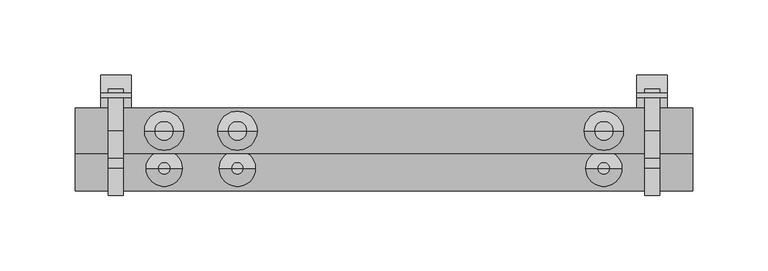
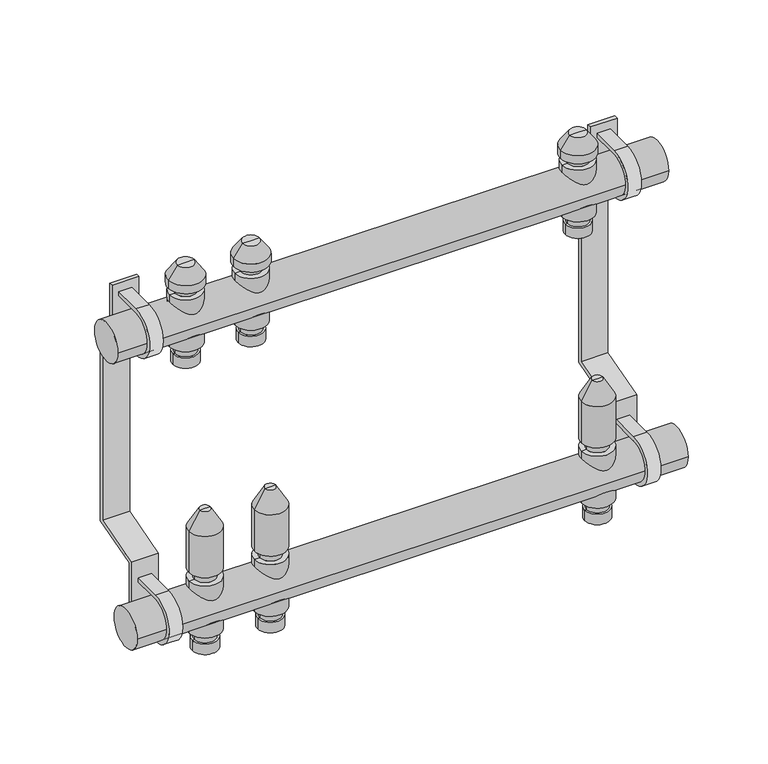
"""IFC4 building model written with IfcOpenShell, lengths in millimetres: valve geometry, PL AT_Manifold_FT-EV : 07 circuits."""

from ifc_helpers import new_model, si_unit, point, frame, frame_2d, origin, origin_2d, place, context, project, spatial, polyline, circle_curve, trimmed, segment, composite_curve, outline, extrude, source, transform, mapped, element, save
from ifc_brep_helpers import plane_surface, cylinder_surface, revolved_surface, advanced_brep


def valve_4b47ae93(model_context):
    return source(origin(), model_context, "Body", "SolidModel", [
        advanced_brep(
        [(81.1666667, 0.0, -35.11267), (100.1666667, 0.0, -35.11267), (90.6666667, 0.0, -35.11267), (81.1666667, 0.0, -27.0369646), (100.1666667, 0.0, -27.0369646), (82.6666667, 0.0, -27.0369646), (98.6666667, 0.0, -27.0369646), (82.6666667, 0.0, -20.330253), (98.6666667, 0.0, -20.330253), (78.6666667, 0.0, -20.330253), (102.6666667, 0.0, -20.330253), (78.6666667, 0.0, 20.330253), (102.6666667, 0.0, 20.330253), (82.6666667, 0.0, 20.330253), (98.6666667, 0.0, 20.330253), (82.6666667, 0.0, 27.0474786), (98.6666667, 0.0, 27.0474786), (78.6666667, 0.0, 27.0474786), (102.6666667, 0.0, 27.0474786), (78.6666667, 0.0, 59.4084325), (102.6666667, 0.0, 59.4084325), (86.6666667, 0.0, 73.264839), (94.6666667, 0.0, 73.264839), (90.6666667, 0.0, 73.264839)],
        [
            (0, 1, circle_curve(frame((90.6666667, 0.0, -35.11267), z_axis=(0.0, 0.0, -1.0), x_axis=(1.0, 0.0, 0.0)), 9.5)),
            (1, 2),
            (2, 0),
            (1, 0, circle_curve(frame((90.6666667, 0.0, -35.11267), z_axis=(0.0, 0.0, -1.0), x_axis=(1.0, 0.0, 0.0)), 9.5)),
            (3, 4, circle_curve(frame((90.6666667, 0.0, -27.0369646), z_axis=(0.0, 0.0, -1.0), x_axis=(1.0, 0.0, 0.0)), 9.5)),
            (4, 1),
            (0, 3),
            (4, 3, circle_curve(frame((90.6666667, 0.0, -27.0369646), z_axis=(0.0, 0.0, -1.0), x_axis=(1.0, 0.0, 0.0)), 9.5)),
            (5, 6, circle_curve(frame((90.6666667, 0.0, -27.0369646), z_axis=(0.0, 0.0, -1.0), x_axis=(1.0, 0.0, 0.0)), 8.0)),
            (6, 4),
            (3, 5),
            (6, 5, circle_curve(frame((90.6666667, 0.0, -27.0369646), z_axis=(0.0, 0.0, -1.0), x_axis=(1.0, 0.0, 0.0)), 8.0)),
            (7, 8, circle_curve(frame((90.6666667, 0.0, -20.330253), z_axis=(0.0, 0.0, -1.0), x_axis=(1.0, 0.0, 0.0)), 8.0)),
            (8, 6),
            (5, 7),
            (8, 7, circle_curve(frame((90.6666667, 0.0, -20.330253), z_axis=(0.0, 0.0, -1.0), x_axis=(1.0, 0.0, 0.0)), 8.0)),
            (9, 10, circle_curve(frame((90.6666667, 0.0, -20.330253), z_axis=(0.0, 0.0, -1.0), x_axis=(1.0, 0.0, 0.0)), 12.0)),
            (10, 8),
            (7, 9),
            (10, 9, circle_curve(frame((90.6666667, 0.0, -20.330253), z_axis=(0.0, 0.0, -1.0), x_axis=(1.0, 0.0, 0.0)), 12.0)),
            (11, 12, circle_curve(frame((90.6666667, 0.0, 20.330253), z_axis=(0.0, 0.0, -1.0), x_axis=(1.0, 0.0, 0.0)), 12.0)),
            (12, 10),
            (9, 11),
            (12, 11, circle_curve(frame((90.6666667, 0.0, 20.330253), z_axis=(0.0, 0.0, -1.0), x_axis=(1.0, 0.0, 0.0)), 12.0)),
            (13, 14, circle_curve(frame((90.6666667, 0.0, 20.330253), z_axis=(0.0, 0.0, -1.0), x_axis=(1.0, 0.0, 0.0)), 8.0)),
            (14, 12),
            (11, 13),
            (14, 13, circle_curve(frame((90.6666667, 0.0, 20.330253), z_axis=(0.0, 0.0, -1.0), x_axis=(1.0, 0.0, 0.0)), 8.0)),
            (15, 16, circle_curve(frame((90.6666667, 0.0, 27.0474786), z_axis=(0.0, 0.0, -1.0), x_axis=(1.0, 0.0, 0.0)), 8.0)),
            (16, 14),
            (13, 15),
            (16, 15, circle_curve(frame((90.6666667, 0.0, 27.0474786), z_axis=(0.0, 0.0, -1.0), x_axis=(1.0, 0.0, 0.0)), 8.0)),
            (17, 18, circle_curve(frame((90.6666667, 0.0, 27.0474786), z_axis=(0.0, 0.0, -1.0), x_axis=(1.0, 0.0, 0.0)), 12.0)),
            (18, 16),
            (15, 17),
            (18, 17, circle_curve(frame((90.6666667, 0.0, 27.0474786), z_axis=(0.0, 0.0, -1.0), x_axis=(1.0, 0.0, 0.0)), 12.0)),
            (19, 20, circle_curve(frame((90.6666667, 0.0, 59.4084325), z_axis=(0.0, 0.0, -1.0), x_axis=(1.0, 0.0, 0.0)), 12.0)),
            (20, 18),
            (17, 19),
            (20, 19, circle_curve(frame((90.6666667, 0.0, 59.4084325), z_axis=(0.0, 0.0, -1.0), x_axis=(1.0, 0.0, 0.0)), 12.0)),
            (21, 22, circle_curve(frame((90.6666667, 0.0, 73.264839), z_axis=(0.0, 0.0, -1.0), x_axis=(1.0, 0.0, 0.0)), 4.0)),
            (22, 20),
            (19, 21),
            (22, 21, circle_curve(frame((90.6666667, 0.0, 73.264839), z_axis=(0.0, 0.0, -1.0), x_axis=(1.0, 0.0, 0.0)), 4.0)),
            (23, 22),
            (21, 23),
        ],
        [
            plane_surface(frame((90.6666667, 0.0, -35.11267), z_axis=(0.0, 0.0, -1.0), x_axis=(1.0, 0.0, 0.0))),
            cylinder_surface(frame((90.6666667, 0.0, 58.264839), z_axis=(0.0, 0.0, 1.0), x_axis=(1.0, 0.0, 0.0)), 9.5),
            plane_surface(frame((90.6666667, 0.0, -27.0369646), z_axis=(0.0, 0.0, 1.0), x_axis=(1.0, 0.0, 0.0))),
            cylinder_surface(frame((90.6666667, 0.0, 58.264839), z_axis=(0.0, 0.0, 1.0), x_axis=(1.0, 0.0, 0.0)), 8.0),
            plane_surface(frame((90.6666667, 0.0, -20.330253), z_axis=(0.0, 0.0, -1.0), x_axis=(1.0, 0.0, 0.0))),
            cylinder_surface(frame((90.6666667, 0.0, 58.264839), z_axis=(0.0, 0.0, 1.0), x_axis=(1.0, 0.0, 0.0)), 12.0),
            plane_surface(frame((90.6666667, 0.0, 20.330253), z_axis=(0.0, 0.0, 1.0), x_axis=(1.0, 0.0, 0.0))),
            plane_surface(frame((90.6666667, 0.0, 27.0474786), z_axis=(0.0, 0.0, -1.0), x_axis=(1.0, 0.0, 0.0))),
            revolved_surface(polyline([(102.6666667, 0.0, 59.4084325), (94.6666667, 0.0, 73.264839)]), (90.6666667, 0.0, 58.264839), (0.0, 0.0, 1.0)),
            plane_surface(frame((90.6666667, 0.0, 73.264839), z_axis=(0.0, 0.0, 1.0), x_axis=(1.0, 0.0, 0.0))),
        ],
        [
            (0, [[1, 2, 3]]),
            (0, [[4, -3, -2]]),
            (1, [[5, 6, -1, 7]]),
            (1, [[8, -7, -4, -6]]),
            (2, [[9, 10, -5, 11]]),
            (2, [[12, -11, -8, -10]]),
            (3, [[13, 14, -9, 15]]),
            (3, [[16, -15, -12, -14]]),
            (4, [[17, 18, -13, 19]]),
            (4, [[20, -19, -16, -18]]),
            (5, [[21, 22, -17, 23]]),
            (5, [[24, -23, -20, -22]]),
            (6, [[25, 26, -21, 27]]),
            (6, [[28, -27, -24, -26]]),
            (3, [[29, 30, -25, 31]]),
            (3, [[32, -31, -28, -30]]),
            (7, [[33, 34, -29, 35]]),
            (7, [[36, -35, -32, -34]]),
            (5, [[37, 38, -33, 39]]),
            (5, [[40, -39, -36, -38]]),
            (8, [[41, 42, -37, 43]]),
            (8, [[44, -43, -40, -42]]),
            (9, [[45, -41, 46]]),
            (9, [[-46, -44, -45]]),
        ],
    ),
        advanced_brep(
        [(81.1666667, 25.0, 174.88733), (100.1666667, 25.0, 174.88733), (90.6666667, 25.0, 174.88733), (81.1666667, 25.0, 182.9630354), (100.1666667, 25.0, 182.9630354), (82.6666667, 25.0, 182.9630354), (98.6666667, 25.0, 182.9630354), (82.6666667, 25.0, 189.669747), (98.6666667, 25.0, 189.669747), (78.6666667, 25.0, 189.669747), (102.6666667, 25.0, 189.669747), (78.6666667, 25.0, 230.330253), (102.6666667, 25.0, 230.330253), (82.6666667, 25.0, 230.330253), (98.6666667, 25.0, 230.330253), (82.6666667, 25.0, 236.0474786), (98.6666667, 25.0, 236.0474786), (77.6666667, 25.0, 236.0474786), (103.6666667, 25.0, 236.0474786), (77.6666667, 25.0, 242.337955), (103.6666667, 25.0, 242.337955), (84.3218445, 25.0, 251.842534), (97.0114888, 25.0, 251.842534), (90.6666667, 25.0, 251.842534)],
        [
            (0, 1, circle_curve(frame((90.6666667, 25.0, 174.88733), z_axis=(0.0, 0.0, -1.0), x_axis=(1.0, 0.0, 0.0)), 9.5)),
            (1, 2),
            (2, 0),
            (1, 0, circle_curve(frame((90.6666667, 25.0, 174.88733), z_axis=(0.0, 0.0, -1.0), x_axis=(1.0, 0.0, 0.0)), 9.5)),
            (3, 4, circle_curve(frame((90.6666667, 25.0, 182.9630354), z_axis=(0.0, 0.0, -1.0), x_axis=(1.0, 0.0, 0.0)), 9.5)),
            (4, 1),
            (0, 3),
            (4, 3, circle_curve(frame((90.6666667, 25.0, 182.9630354), z_axis=(0.0, 0.0, -1.0), x_axis=(1.0, 0.0, 0.0)), 9.5)),
            (5, 6, circle_curve(frame((90.6666667, 25.0, 182.9630354), z_axis=(0.0, 0.0, -1.0), x_axis=(1.0, 0.0, 0.0)), 8.0)),
            (6, 4),
            (3, 5),
            (6, 5, circle_curve(frame((90.6666667, 25.0, 182.9630354), z_axis=(0.0, 0.0, -1.0), x_axis=(1.0, 0.0, 0.0)), 8.0)),
            (7, 8, circle_curve(frame((90.6666667, 25.0, 189.669747), z_axis=(0.0, 0.0, -1.0), x_axis=(1.0, 0.0, 0.0)), 8.0)),
            (8, 6),
            (5, 7),
            (8, 7, circle_curve(frame((90.6666667, 25.0, 189.669747), z_axis=(0.0, 0.0, -1.0), x_axis=(1.0, 0.0, 0.0)), 8.0)),
            (9, 10, circle_curve(frame((90.6666667, 25.0, 189.669747), z_axis=(0.0, 0.0, -1.0), x_axis=(1.0, 0.0, 0.0)), 12.0)),
            (10, 8),
            (7, 9),
            (10, 9, circle_curve(frame((90.6666667, 25.0, 189.669747), z_axis=(0.0, 0.0, -1.0), x_axis=(1.0, 0.0, 0.0)), 12.0)),
            (11, 12, circle_curve(frame((90.6666667, 25.0, 230.330253), z_axis=(0.0, 0.0, -1.0), x_axis=(1.0, 0.0, 0.0)), 12.0)),
            (12, 10),
            (9, 11),
            (12, 11, circle_curve(frame((90.6666667, 25.0, 230.330253), z_axis=(0.0, 0.0, -1.0), x_axis=(1.0, 0.0, 0.0)), 12.0)),
            (13, 14, circle_curve(frame((90.6666667, 25.0, 230.330253), z_axis=(0.0, 0.0, -1.0), x_axis=(1.0, 0.0, 0.0)), 8.0)),
            (14, 12),
            (11, 13),
            (14, 13, circle_curve(frame((90.6666667, 25.0, 230.330253), z_axis=(0.0, 0.0, -1.0), x_axis=(1.0, 0.0, 0.0)), 8.0)),
            (15, 16, circle_curve(frame((90.6666667, 25.0, 236.0474786), z_axis=(0.0, 0.0, -1.0), x_axis=(1.0, 0.0, 0.0)), 8.0)),
            (16, 14),
            (13, 15),
            (16, 15, circle_curve(frame((90.6666667, 25.0, 236.0474786), z_axis=(0.0, 0.0, -1.0), x_axis=(1.0, 0.0, 0.0)), 8.0)),
            (17, 18, circle_curve(frame((90.6666667, 25.0, 236.0474786), z_axis=(0.0, 0.0, -1.0), x_axis=(1.0, 0.0, 0.0)), 13.0)),
            (18, 16),
            (15, 17),
            (18, 17, circle_curve(frame((90.6666667, 25.0, 236.0474786), z_axis=(0.0, 0.0, -1.0), x_axis=(1.0, 0.0, 0.0)), 13.0)),
            (19, 20, circle_curve(frame((90.6666667, 25.0, 242.337955), z_axis=(0.0, 0.0, -1.0), x_axis=(1.0, 0.0, 0.0)), 13.0)),
            (20, 18),
            (17, 19),
            (20, 19, circle_curve(frame((90.6666667, 25.0, 242.337955), z_axis=(0.0, 0.0, -1.0), x_axis=(1.0, 0.0, 0.0)), 13.0)),
            (21, 22, circle_curve(frame((90.6666667, 25.0, 251.842534), z_axis=(0.0, 0.0, -1.0), x_axis=(1.0, 0.0, 0.0)), 6.3448221)),
            (22, 20),
            (19, 21),
            (22, 21, circle_curve(frame((90.6666667, 25.0, 251.842534), z_axis=(0.0, 0.0, -1.0), x_axis=(1.0, 0.0, 0.0)), 6.3448221)),
            (23, 22),
            (21, 23),
        ],
        [
            plane_surface(frame((90.6666667, 25.0, 174.88733), z_axis=(0.0, 0.0, -1.0), x_axis=(1.0, 0.0, 0.0))),
            cylinder_surface(frame((90.6666667, 25.0, 247.7026565), z_axis=(0.0, 0.0, 1.0), x_axis=(1.0, 0.0, 0.0)), 9.5),
            plane_surface(frame((90.6666667, 25.0, 182.9630354), z_axis=(0.0, 0.0, 1.0), x_axis=(1.0, 0.0, 0.0))),
            cylinder_surface(frame((90.6666667, 25.0, 247.7026565), z_axis=(0.0, 0.0, 1.0), x_axis=(1.0, 0.0, 0.0)), 8.0),
            plane_surface(frame((90.6666667, 25.0, 189.669747), z_axis=(0.0, 0.0, -1.0), x_axis=(1.0, 0.0, 0.0))),
            cylinder_surface(frame((90.6666667, 25.0, 247.7026565), z_axis=(0.0, 0.0, 1.0), x_axis=(1.0, 0.0, 0.0)), 12.0),
            plane_surface(frame((90.6666667, 25.0, 230.330253), z_axis=(0.0, 0.0, 1.0), x_axis=(1.0, 0.0, 0.0))),
            plane_surface(frame((90.6666667, 25.0, 236.0474786), z_axis=(0.0, 0.0, -1.0), x_axis=(1.0, 0.0, 0.0))),
            cylinder_surface(frame((90.6666667, 25.0, 247.7026565), z_axis=(0.0, 0.0, 1.0), x_axis=(1.0, 0.0, 0.0)), 13.0),
            revolved_surface(polyline([(103.6666667, 25.0, 242.337955), (97.0114888, 25.0, 251.842534)]), (90.6666667, 25.0, 247.7026565), (0.0, 0.0, 1.0)),
            plane_surface(frame((90.6666667, 25.0, 251.842534), z_axis=(0.0, 0.0, 1.0), x_axis=(1.0, 0.0, 0.0))),
        ],
        [
            (0, [[1, 2, 3]]),
            (0, [[4, -3, -2]]),
            (1, [[5, 6, -1, 7]]),
            (1, [[8, -7, -4, -6]]),
            (2, [[9, 10, -5, 11]]),
            (2, [[12, -11, -8, -10]]),
            (3, [[13, 14, -9, 15]]),
            (3, [[16, -15, -12, -14]]),
            (4, [[17, 18, -13, 19]]),
            (4, [[20, -19, -16, -18]]),
            (5, [[21, 22, -17, 23]]),
            (5, [[24, -23, -20, -22]]),
            (6, [[25, 26, -21, 27]]),
            (6, [[28, -27, -24, -26]]),
            (3, [[29, 30, -25, 31]]),
            (3, [[32, -31, -28, -30]]),
            (7, [[33, 34, -29, 35]]),
            (7, [[36, -35, -32, -34]]),
            (8, [[37, 38, -33, 39]]),
            (8, [[40, -39, -36, -38]]),
            (9, [[41, 42, -37, 43]]),
            (9, [[44, -43, -40, -42]]),
            (10, [[45, -41, 46]]),
            (10, [[-46, -44, -45]]),
        ],
    ),
        advanced_brep(
        [(324.5, 0.0, -35.11267), (343.5, 0.0, -35.11267), (334.0, 0.0, -35.11267), (324.5, 0.0, -27.0369646), (343.5, 0.0, -27.0369646), (326.0, 0.0, -27.0369646), (342.0, 0.0, -27.0369646), (326.0, 0.0, -20.330253), (342.0, 0.0, -20.330253), (322.0, 0.0, -20.330253), (346.0, 0.0, -20.330253), (322.0, 0.0, 20.330253), (346.0, 0.0, 20.330253), (326.0, 0.0, 20.330253), (342.0, 0.0, 20.330253), (326.0, 0.0, 27.0474786), (342.0, 0.0, 27.0474786), (322.0, 0.0, 27.0474786), (346.0, 0.0, 27.0474786), (322.0, 0.0, 59.4084325), (346.0, 0.0, 59.4084325), (330.0, 0.0, 73.264839), (338.0, 0.0, 73.264839), (334.0, 0.0, 73.264839)],
        [
            (0, 1, circle_curve(frame((334.0, 0.0, -35.11267), z_axis=(0.0, 0.0, -1.0), x_axis=(1.0, 0.0, 0.0)), 9.5)),
            (1, 2),
            (2, 0),
            (1, 0, circle_curve(frame((334.0, 0.0, -35.11267), z_axis=(0.0, 0.0, -1.0), x_axis=(1.0, 0.0, 0.0)), 9.5)),
            (3, 4, circle_curve(frame((334.0, 0.0, -27.0369646), z_axis=(0.0, 0.0, -1.0), x_axis=(1.0, 0.0, 0.0)), 9.5)),
            (4, 1),
            (0, 3),
            (4, 3, circle_curve(frame((334.0, 0.0, -27.0369646), z_axis=(0.0, 0.0, -1.0), x_axis=(1.0, 0.0, 0.0)), 9.5)),
            (5, 6, circle_curve(frame((334.0, 0.0, -27.0369646), z_axis=(0.0, 0.0, -1.0), x_axis=(1.0, 0.0, 0.0)), 8.0)),
            (6, 4),
            (3, 5),
            (6, 5, circle_curve(frame((334.0, 0.0, -27.0369646), z_axis=(0.0, 0.0, -1.0), x_axis=(1.0, 0.0, 0.0)), 8.0)),
            (7, 8, circle_curve(frame((334.0, 0.0, -20.330253), z_axis=(0.0, 0.0, -1.0), x_axis=(1.0, 0.0, 0.0)), 8.0)),
            (8, 6),
            (5, 7),
            (8, 7, circle_curve(frame((334.0, 0.0, -20.330253), z_axis=(0.0, 0.0, -1.0), x_axis=(1.0, 0.0, 0.0)), 8.0)),
            (9, 10, circle_curve(frame((334.0, 0.0, -20.330253), z_axis=(0.0, 0.0, -1.0), x_axis=(1.0, 0.0, 0.0)), 12.0)),
            (10, 8),
            (7, 9),
            (10, 9, circle_curve(frame((334.0, 0.0, -20.330253), z_axis=(0.0, 0.0, -1.0), x_axis=(1.0, 0.0, 0.0)), 12.0)),
            (11, 12, circle_curve(frame((334.0, 0.0, 20.330253), z_axis=(0.0, 0.0, -1.0), x_axis=(1.0, 0.0, 0.0)), 12.0)),
            (12, 10),
            (9, 11),
            (12, 11, circle_curve(frame((334.0, 0.0, 20.330253), z_axis=(0.0, 0.0, -1.0), x_axis=(1.0, 0.0, 0.0)), 12.0)),
            (13, 14, circle_curve(frame((334.0, 0.0, 20.330253), z_axis=(0.0, 0.0, -1.0), x_axis=(1.0, 0.0, 0.0)), 8.0)),
            (14, 12),
            (11, 13),
            (14, 13, circle_curve(frame((334.0, 0.0, 20.330253), z_axis=(0.0, 0.0, -1.0), x_axis=(1.0, 0.0, 0.0)), 8.0)),
            (15, 16, circle_curve(frame((334.0, 0.0, 27.0474786), z_axis=(0.0, 0.0, -1.0), x_axis=(1.0, 0.0, 0.0)), 8.0)),
            (16, 14),
            (13, 15),
            (16, 15, circle_curve(frame((334.0, 0.0, 27.0474786), z_axis=(0.0, 0.0, -1.0), x_axis=(1.0, 0.0, 0.0)), 8.0)),
            (17, 18, circle_curve(frame((334.0, 0.0, 27.0474786), z_axis=(0.0, 0.0, -1.0), x_axis=(1.0, 0.0, 0.0)), 12.0)),
            (18, 16),
            (15, 17),
            (18, 17, circle_curve(frame((334.0, 0.0, 27.0474786), z_axis=(0.0, 0.0, -1.0), x_axis=(1.0, 0.0, 0.0)), 12.0)),
            (19, 20, circle_curve(frame((334.0, 0.0, 59.4084325), z_axis=(0.0, 0.0, -1.0), x_axis=(1.0, 0.0, 0.0)), 12.0)),
            (20, 18),
            (17, 19),
            (20, 19, circle_curve(frame((334.0, 0.0, 59.4084325), z_axis=(0.0, 0.0, -1.0), x_axis=(1.0, 0.0, 0.0)), 12.0)),
            (21, 22, circle_curve(frame((334.0, 0.0, 73.264839), z_axis=(0.0, 0.0, -1.0), x_axis=(1.0, 0.0, 0.0)), 4.0)),
            (22, 20),
            (19, 21),
            (22, 21, circle_curve(frame((334.0, 0.0, 73.264839), z_axis=(0.0, 0.0, -1.0), x_axis=(1.0, 0.0, 0.0)), 4.0)),
            (23, 22),
            (21, 23),
        ],
        [
            plane_surface(frame((334.0, 0.0, -35.11267), z_axis=(0.0, 0.0, -1.0), x_axis=(1.0, 0.0, 0.0))),
            cylinder_surface(frame((334.0, 0.0, 58.264839), z_axis=(0.0, 0.0, 1.0), x_axis=(1.0, 0.0, 0.0)), 9.5),
            plane_surface(frame((334.0, 0.0, -27.0369646), z_axis=(0.0, 0.0, 1.0), x_axis=(1.0, 0.0, 0.0))),
            cylinder_surface(frame((334.0, 0.0, 58.264839), z_axis=(0.0, 0.0, 1.0), x_axis=(1.0, 0.0, 0.0)), 8.0),
            plane_surface(frame((334.0, 0.0, -20.330253), z_axis=(0.0, 0.0, -1.0), x_axis=(1.0, 0.0, 0.0))),
            cylinder_surface(frame((334.0, 0.0, 58.264839), z_axis=(0.0, 0.0, 1.0), x_axis=(1.0, 0.0, 0.0)), 12.0),
            plane_surface(frame((334.0, 0.0, 20.330253), z_axis=(0.0, 0.0, 1.0), x_axis=(1.0, 0.0, 0.0))),
            plane_surface(frame((334.0, 0.0, 27.0474786), z_axis=(0.0, 0.0, -1.0), x_axis=(1.0, 0.0, 0.0))),
            revolved_surface(polyline([(346.0, 0.0, 59.4084325), (338.0, 0.0, 73.264839)]), (334.0, 0.0, 58.264839), (0.0, 0.0, 1.0)),
            plane_surface(frame((334.0, 0.0, 73.264839), z_axis=(0.0, 0.0, 1.0), x_axis=(1.0, 0.0, 0.0))),
        ],
        [
            (0, [[1, 2, 3]]),
            (0, [[4, -3, -2]]),
            (1, [[5, 6, -1, 7]]),
            (1, [[8, -7, -4, -6]]),
            (2, [[9, 10, -5, 11]]),
            (2, [[12, -11, -8, -10]]),
            (3, [[13, 14, -9, 15]]),
            (3, [[16, -15, -12, -14]]),
            (4, [[17, 18, -13, 19]]),
            (4, [[20, -19, -16, -18]]),
            (5, [[21, 22, -17, 23]]),
            (5, [[24, -23, -20, -22]]),
            (6, [[25, 26, -21, 27]]),
            (6, [[28, -27, -24, -26]]),
            (3, [[29, 30, -25, 31]]),
            (3, [[32, -31, -28, -30]]),
            (7, [[33, 34, -29, 35]]),
            (7, [[36, -35, -32, -34]]),
            (5, [[37, 38, -33, 39]]),
            (5, [[40, -39, -36, -38]]),
            (8, [[41, 42, -37, 43]]),
            (8, [[44, -43, -40, -42]]),
            (9, [[45, -41, 46]]),
            (9, [[-46, -44, -45]]),
        ],
    ),
        advanced_brep(
        [(324.5, 25.0, 174.88733), (343.5, 25.0, 174.88733), (334.0, 25.0, 174.88733), (324.5, 25.0, 182.9630354), (343.5, 25.0, 182.9630354), (326.0, 25.0, 182.9630354), (342.0, 25.0, 182.9630354), (326.0, 25.0, 189.669747), (342.0, 25.0, 189.669747), (322.0, 25.0, 189.669747), (346.0, 25.0, 189.669747), (322.0, 25.0, 230.330253), (346.0, 25.0, 230.330253), (326.0, 25.0, 230.330253), (342.0, 25.0, 230.330253), (326.0, 25.0, 236.0474786), (342.0, 25.0, 236.0474786), (321.0, 25.0, 236.0474786), (347.0, 25.0, 236.0474786), (321.0, 25.0, 242.337955), (347.0, 25.0, 242.337955), (327.6551779, 25.0, 251.842534), (340.3448221, 25.0, 251.842534), (334.0, 25.0, 251.842534)],
        [
            (0, 1, circle_curve(frame((334.0, 25.0, 174.88733), z_axis=(0.0, 0.0, -1.0), x_axis=(1.0, 0.0, 0.0)), 9.5)),
            (1, 2),
            (2, 0),
            (1, 0, circle_curve(frame((334.0, 25.0, 174.88733), z_axis=(0.0, 0.0, -1.0), x_axis=(1.0, 0.0, 0.0)), 9.5)),
            (3, 4, circle_curve(frame((334.0, 25.0, 182.9630354), z_axis=(0.0, 0.0, -1.0), x_axis=(1.0, 0.0, 0.0)), 9.5)),
            (4, 1),
            (0, 3),
            (4, 3, circle_curve(frame((334.0, 25.0, 182.9630354), z_axis=(0.0, 0.0, -1.0), x_axis=(1.0, 0.0, 0.0)), 9.5)),
            (5, 6, circle_curve(frame((334.0, 25.0, 182.9630354), z_axis=(0.0, 0.0, -1.0), x_axis=(1.0, 0.0, 0.0)), 8.0)),
            (6, 4),
            (3, 5),
            (6, 5, circle_curve(frame((334.0, 25.0, 182.9630354), z_axis=(0.0, 0.0, -1.0), x_axis=(1.0, 0.0, 0.0)), 8.0)),
            (7, 8, circle_curve(frame((334.0, 25.0, 189.669747), z_axis=(0.0, 0.0, -1.0), x_axis=(1.0, 0.0, 0.0)), 8.0)),
            (8, 6),
            (5, 7),
            (8, 7, circle_curve(frame((334.0, 25.0, 189.669747), z_axis=(0.0, 0.0, -1.0), x_axis=(1.0, 0.0, 0.0)), 8.0)),
            (9, 10, circle_curve(frame((334.0, 25.0, 189.669747), z_axis=(0.0, 0.0, -1.0), x_axis=(1.0, 0.0, 0.0)), 12.0)),
            (10, 8),
            (7, 9),
            (10, 9, circle_curve(frame((334.0, 25.0, 189.669747), z_axis=(0.0, 0.0, -1.0), x_axis=(1.0, 0.0, 0.0)), 12.0)),
            (11, 12, circle_curve(frame((334.0, 25.0, 230.330253), z_axis=(0.0, 0.0, -1.0), x_axis=(1.0, 0.0, 0.0)), 12.0)),
            (12, 10),
            (9, 11),
            (12, 11, circle_curve(frame((334.0, 25.0, 230.330253), z_axis=(0.0, 0.0, -1.0), x_axis=(1.0, 0.0, 0.0)), 12.0)),
            (13, 14, circle_curve(frame((334.0, 25.0, 230.330253), z_axis=(0.0, 0.0, -1.0), x_axis=(1.0, 0.0, 0.0)), 8.0)),
            (14, 12),
            (11, 13),
            (14, 13, circle_curve(frame((334.0, 25.0, 230.330253), z_axis=(0.0, 0.0, -1.0), x_axis=(1.0, 0.0, 0.0)), 8.0)),
            (15, 16, circle_curve(frame((334.0, 25.0, 236.0474786), z_axis=(0.0, 0.0, -1.0), x_axis=(1.0, 0.0, 0.0)), 8.0)),
            (16, 14),
            (13, 15),
            (16, 15, circle_curve(frame((334.0, 25.0, 236.0474786), z_axis=(0.0, 0.0, -1.0), x_axis=(1.0, 0.0, 0.0)), 8.0)),
            (17, 18, circle_curve(frame((334.0, 25.0, 236.0474786), z_axis=(0.0, 0.0, -1.0), x_axis=(1.0, 0.0, 0.0)), 13.0)),
            (18, 16),
            (15, 17),
            (18, 17, circle_curve(frame((334.0, 25.0, 236.0474786), z_axis=(0.0, 0.0, -1.0), x_axis=(1.0, 0.0, 0.0)), 13.0)),
            (19, 20, circle_curve(frame((334.0, 25.0, 242.337955), z_axis=(0.0, 0.0, -1.0), x_axis=(1.0, 0.0, 0.0)), 13.0)),
            (20, 18),
            (17, 19),
            (20, 19, circle_curve(frame((334.0, 25.0, 242.337955), z_axis=(0.0, 0.0, -1.0), x_axis=(1.0, 0.0, 0.0)), 13.0)),
            (21, 22, circle_curve(frame((334.0, 25.0, 251.842534), z_axis=(0.0, 0.0, -1.0), x_axis=(1.0, 0.0, 0.0)), 6.3448221)),
            (22, 20),
            (19, 21),
            (22, 21, circle_curve(frame((334.0, 25.0, 251.842534), z_axis=(0.0, 0.0, -1.0), x_axis=(1.0, 0.0, 0.0)), 6.3448221)),
            (23, 22),
            (21, 23),
        ],
        [
            plane_surface(frame((334.0, 25.0, 174.88733), z_axis=(0.0, 0.0, -1.0), x_axis=(1.0, 0.0, 0.0))),
            cylinder_surface(frame((334.0, 25.0, 247.7026565), z_axis=(0.0, 0.0, 1.0), x_axis=(1.0, 0.0, 0.0)), 9.5),
            plane_surface(frame((334.0, 25.0, 182.9630354), z_axis=(0.0, 0.0, 1.0), x_axis=(1.0, 0.0, 0.0))),
            cylinder_surface(frame((334.0, 25.0, 247.7026565), z_axis=(0.0, 0.0, 1.0), x_axis=(1.0, 0.0, 0.0)), 8.0),
            plane_surface(frame((334.0, 25.0, 189.669747), z_axis=(0.0, 0.0, -1.0), x_axis=(1.0, 0.0, 0.0))),
            cylinder_surface(frame((334.0, 25.0, 247.7026565), z_axis=(0.0, 0.0, 1.0), x_axis=(1.0, 0.0, 0.0)), 12.0),
            plane_surface(frame((334.0, 25.0, 230.330253), z_axis=(0.0, 0.0, 1.0), x_axis=(1.0, 0.0, 0.0))),
            plane_surface(frame((334.0, 25.0, 236.0474786), z_axis=(0.0, 0.0, -1.0), x_axis=(1.0, 0.0, 0.0))),
            cylinder_surface(frame((334.0, 25.0, 247.7026565), z_axis=(0.0, 0.0, 1.0), x_axis=(1.0, 0.0, 0.0)), 13.0),
            revolved_surface(polyline([(347.0, 25.0, 242.337955), (340.3448221, 25.0, 251.842534)]), (334.0, 25.0, 247.7026565), (0.0, 0.0, 1.0)),
            plane_surface(frame((334.0, 25.0, 251.842534), z_axis=(0.0, 0.0, 1.0), x_axis=(1.0, 0.0, 0.0))),
        ],
        [
            (0, [[1, 2, 3]]),
            (0, [[4, -3, -2]]),
            (1, [[5, 6, -1, 7]]),
            (1, [[8, -7, -4, -6]]),
            (2, [[9, 10, -5, 11]]),
            (2, [[12, -11, -8, -10]]),
            (3, [[13, 14, -9, 15]]),
            (3, [[16, -15, -12, -14]]),
            (4, [[17, 18, -13, 19]]),
            (4, [[20, -19, -16, -18]]),
            (5, [[21, 22, -17, 23]]),
            (5, [[24, -23, -20, -22]]),
            (6, [[25, 26, -21, 27]]),
            (6, [[28, -27, -24, -26]]),
            (3, [[29, 30, -25, 31]]),
            (3, [[32, -31, -28, -30]]),
            (7, [[33, 34, -29, 35]]),
            (7, [[36, -35, -32, -34]]),
            (8, [[37, 38, -33, 39]]),
            (8, [[40, -39, -36, -38]]),
            (9, [[41, 42, -37, 43]]),
            (9, [[44, -43, -40, -42]]),
            (10, [[45, -41, 46]]),
            (10, [[-46, -44, -45]]),
        ],
    ),
        advanced_brep(
        [(32.5, 25.0, 174.88733), (51.5, 25.0, 174.88733), (42.0, 25.0, 174.88733), (32.5, 25.0, 182.9630354), (51.5, 25.0, 182.9630354), (34.0, 25.0, 182.9630354), (50.0, 25.0, 182.9630354), (34.0, 25.0, 189.669747), (50.0, 25.0, 189.669747), (30.0, 25.0, 189.669747), (54.0, 25.0, 189.669747), (30.0, 25.0, 230.330253), (54.0, 25.0, 230.330253), (34.0, 25.0, 230.330253), (50.0, 25.0, 230.330253), (34.0, 25.0, 236.0474786), (50.0, 25.0, 236.0474786), (29.0, 25.0, 236.0474786), (55.0, 25.0, 236.0474786), (29.0, 25.0, 242.337955), (55.0, 25.0, 242.337955), (35.6551779, 25.0, 251.842534), (48.3448221, 25.0, 251.842534), (42.0, 25.0, 251.842534)],
        [
            (0, 1, circle_curve(frame((42.0, 25.0, 174.88733), z_axis=(0.0, 0.0, -1.0), x_axis=(1.0, 0.0, 0.0)), 9.5)),
            (1, 2),
            (2, 0),
            (1, 0, circle_curve(frame((42.0, 25.0, 174.88733), z_axis=(0.0, 0.0, -1.0), x_axis=(1.0, 0.0, 0.0)), 9.5)),
            (3, 4, circle_curve(frame((42.0, 25.0, 182.9630354), z_axis=(0.0, 0.0, -1.0), x_axis=(1.0, 0.0, 0.0)), 9.5)),
            (4, 1),
            (0, 3),
            (4, 3, circle_curve(frame((42.0, 25.0, 182.9630354), z_axis=(0.0, 0.0, -1.0), x_axis=(1.0, 0.0, 0.0)), 9.5)),
            (5, 6, circle_curve(frame((42.0, 25.0, 182.9630354), z_axis=(0.0, 0.0, -1.0), x_axis=(1.0, 0.0, 0.0)), 8.0)),
            (6, 4),
            (3, 5),
            (6, 5, circle_curve(frame((42.0, 25.0, 182.9630354), z_axis=(0.0, 0.0, -1.0), x_axis=(1.0, 0.0, 0.0)), 8.0)),
            (7, 8, circle_curve(frame((42.0, 25.0, 189.669747), z_axis=(0.0, 0.0, -1.0), x_axis=(1.0, 0.0, 0.0)), 8.0)),
            (8, 6),
            (5, 7),
            (8, 7, circle_curve(frame((42.0, 25.0, 189.669747), z_axis=(0.0, 0.0, -1.0), x_axis=(1.0, 0.0, 0.0)), 8.0)),
            (9, 10, circle_curve(frame((42.0, 25.0, 189.669747), z_axis=(0.0, 0.0, -1.0), x_axis=(1.0, 0.0, 0.0)), 12.0)),
            (10, 8),
            (7, 9),
            (10, 9, circle_curve(frame((42.0, 25.0, 189.669747), z_axis=(0.0, 0.0, -1.0), x_axis=(1.0, 0.0, 0.0)), 12.0)),
            (11, 12, circle_curve(frame((42.0, 25.0, 230.330253), z_axis=(0.0, 0.0, -1.0), x_axis=(1.0, 0.0, 0.0)), 12.0)),
            (12, 10),
            (9, 11),
            (12, 11, circle_curve(frame((42.0, 25.0, 230.330253), z_axis=(0.0, 0.0, -1.0), x_axis=(1.0, 0.0, 0.0)), 12.0)),
            (13, 14, circle_curve(frame((42.0, 25.0, 230.330253), z_axis=(0.0, 0.0, -1.0), x_axis=(1.0, 0.0, 0.0)), 8.0)),
            (14, 12),
            (11, 13),
            (14, 13, circle_curve(frame((42.0, 25.0, 230.330253), z_axis=(0.0, 0.0, -1.0), x_axis=(1.0, 0.0, 0.0)), 8.0)),
            (15, 16, circle_curve(frame((42.0, 25.0, 236.0474786), z_axis=(0.0, 0.0, -1.0), x_axis=(1.0, 0.0, 0.0)), 8.0)),
            (16, 14),
            (13, 15),
            (16, 15, circle_curve(frame((42.0, 25.0, 236.0474786), z_axis=(0.0, 0.0, -1.0), x_axis=(1.0, 0.0, 0.0)), 8.0)),
            (17, 18, circle_curve(frame((42.0, 25.0, 236.0474786), z_axis=(0.0, 0.0, -1.0), x_axis=(1.0, 0.0, 0.0)), 13.0)),
            (18, 16),
            (15, 17),
            (18, 17, circle_curve(frame((42.0, 25.0, 236.0474786), z_axis=(0.0, 0.0, -1.0), x_axis=(1.0, 0.0, 0.0)), 13.0)),
            (19, 20, circle_curve(frame((42.0, 25.0, 242.337955), z_axis=(0.0, 0.0, -1.0), x_axis=(1.0, 0.0, 0.0)), 13.0)),
            (20, 18),
            (17, 19),
            (20, 19, circle_curve(frame((42.0, 25.0, 242.337955), z_axis=(0.0, 0.0, -1.0), x_axis=(1.0, 0.0, 0.0)), 13.0)),
            (21, 22, circle_curve(frame((42.0, 25.0, 251.842534), z_axis=(0.0, 0.0, -1.0), x_axis=(1.0, 0.0, 0.0)), 6.3448221)),
            (22, 20),
            (19, 21),
            (22, 21, circle_curve(frame((42.0, 25.0, 251.842534), z_axis=(0.0, 0.0, -1.0), x_axis=(1.0, 0.0, 0.0)), 6.3448221)),
            (23, 22),
            (21, 23),
        ],
        [
            plane_surface(frame((42.0, 25.0, 174.88733), z_axis=(0.0, 0.0, -1.0), x_axis=(1.0, 0.0, 0.0))),
            cylinder_surface(frame((42.0, 25.0, 247.7026565), z_axis=(0.0, 0.0, 1.0), x_axis=(1.0, 0.0, 0.0)), 9.5),
            plane_surface(frame((42.0, 25.0, 182.9630354), z_axis=(0.0, 0.0, 1.0), x_axis=(1.0, 0.0, 0.0))),
            cylinder_surface(frame((42.0, 25.0, 247.7026565), z_axis=(0.0, 0.0, 1.0), x_axis=(1.0, 0.0, 0.0)), 8.0),
            plane_surface(frame((42.0, 25.0, 189.669747), z_axis=(0.0, 0.0, -1.0), x_axis=(1.0, 0.0, 0.0))),
            cylinder_surface(frame((42.0, 25.0, 247.7026565), z_axis=(0.0, 0.0, 1.0), x_axis=(1.0, 0.0, 0.0)), 12.0),
            plane_surface(frame((42.0, 25.0, 230.330253), z_axis=(0.0, 0.0, 1.0), x_axis=(1.0, 0.0, 0.0))),
            plane_surface(frame((42.0, 25.0, 236.0474786), z_axis=(0.0, 0.0, -1.0), x_axis=(1.0, 0.0, 0.0))),
            cylinder_surface(frame((42.0, 25.0, 247.7026565), z_axis=(0.0, 0.0, 1.0), x_axis=(1.0, 0.0, 0.0)), 13.0),
            revolved_surface(polyline([(55.0, 25.0, 242.337955), (48.3448221, 25.0, 251.842534)]), (42.0, 25.0, 247.7026565), (0.0, 0.0, 1.0)),
            plane_surface(frame((42.0, 25.0, 251.842534), z_axis=(0.0, 0.0, 1.0), x_axis=(1.0, 0.0, 0.0))),
        ],
        [
            (0, [[1, 2, 3]]),
            (0, [[4, -3, -2]]),
            (1, [[5, 6, -1, 7]]),
            (1, [[8, -7, -4, -6]]),
            (2, [[9, 10, -5, 11]]),
            (2, [[12, -11, -8, -10]]),
            (3, [[13, 14, -9, 15]]),
            (3, [[16, -15, -12, -14]]),
            (4, [[17, 18, -13, 19]]),
            (4, [[20, -19, -16, -18]]),
            (5, [[21, 22, -17, 23]]),
            (5, [[24, -23, -20, -22]]),
            (6, [[25, 26, -21, 27]]),
            (6, [[28, -27, -24, -26]]),
            (3, [[29, 30, -25, 31]]),
            (3, [[32, -31, -28, -30]]),
            (7, [[33, 34, -29, 35]]),
            (7, [[36, -35, -32, -34]]),
            (8, [[37, 38, -33, 39]]),
            (8, [[40, -39, -36, -38]]),
            (9, [[41, 42, -37, 43]]),
            (9, [[44, -43, -40, -42]]),
            (10, [[45, -41, 46]]),
            (10, [[-46, -44, -45]]),
        ],
    ),
        advanced_brep(
        [(32.5, 0.0, -35.11267), (51.5, 0.0, -35.11267), (42.0, 0.0, -35.11267), (32.5, 0.0, -27.0369646), (51.5, 0.0, -27.0369646), (34.0, 0.0, -27.0369646), (50.0, 0.0, -27.0369646), (34.0, 0.0, -20.330253), (50.0, 0.0, -20.330253), (30.0, 0.0, -20.330253), (54.0, 0.0, -20.330253), (30.0, 0.0, 20.330253), (54.0, 0.0, 20.330253), (34.0, 0.0, 20.330253), (50.0, 0.0, 20.330253), (34.0, 0.0, 27.0474786), (50.0, 0.0, 27.0474786), (30.0, 0.0, 27.0474786), (54.0, 0.0, 27.0474786), (30.0, 0.0, 59.4084325), (54.0, 0.0, 59.4084325), (38.0, 0.0, 73.264839), (46.0, 0.0, 73.264839), (42.0, 0.0, 73.264839)],
        [
            (0, 1, circle_curve(frame((42.0, 0.0, -35.11267), z_axis=(0.0, 0.0, -1.0), x_axis=(1.0, 0.0, 0.0)), 9.5)),
            (1, 2),
            (2, 0),
            (1, 0, circle_curve(frame((42.0, 0.0, -35.11267), z_axis=(0.0, 0.0, -1.0), x_axis=(1.0, 0.0, 0.0)), 9.5)),
            (3, 4, circle_curve(frame((42.0, 0.0, -27.0369646), z_axis=(0.0, 0.0, -1.0), x_axis=(1.0, 0.0, 0.0)), 9.5)),
            (4, 1),
            (0, 3),
            (4, 3, circle_curve(frame((42.0, 0.0, -27.0369646), z_axis=(0.0, 0.0, -1.0), x_axis=(1.0, 0.0, 0.0)), 9.5)),
            (5, 6, circle_curve(frame((42.0, 0.0, -27.0369646), z_axis=(0.0, 0.0, -1.0), x_axis=(1.0, 0.0, 0.0)), 8.0)),
            (6, 4),
            (3, 5),
            (6, 5, circle_curve(frame((42.0, 0.0, -27.0369646), z_axis=(0.0, 0.0, -1.0), x_axis=(1.0, 0.0, 0.0)), 8.0)),
            (7, 8, circle_curve(frame((42.0, 0.0, -20.330253), z_axis=(0.0, 0.0, -1.0), x_axis=(1.0, 0.0, 0.0)), 8.0)),
            (8, 6),
            (5, 7),
            (8, 7, circle_curve(frame((42.0, 0.0, -20.330253), z_axis=(0.0, 0.0, -1.0), x_axis=(1.0, 0.0, 0.0)), 8.0)),
            (9, 10, circle_curve(frame((42.0, 0.0, -20.330253), z_axis=(0.0, 0.0, -1.0), x_axis=(1.0, 0.0, 0.0)), 12.0)),
            (10, 8),
            (7, 9),
            (10, 9, circle_curve(frame((42.0, 0.0, -20.330253), z_axis=(0.0, 0.0, -1.0), x_axis=(1.0, 0.0, 0.0)), 12.0)),
            (11, 12, circle_curve(frame((42.0, 0.0, 20.330253), z_axis=(0.0, 0.0, -1.0), x_axis=(1.0, 0.0, 0.0)), 12.0)),
            (12, 10),
            (9, 11),
            (12, 11, circle_curve(frame((42.0, 0.0, 20.330253), z_axis=(0.0, 0.0, -1.0), x_axis=(1.0, 0.0, 0.0)), 12.0)),
            (13, 14, circle_curve(frame((42.0, 0.0, 20.330253), z_axis=(0.0, 0.0, -1.0), x_axis=(1.0, 0.0, 0.0)), 8.0)),
            (14, 12),
            (11, 13),
            (14, 13, circle_curve(frame((42.0, 0.0, 20.330253), z_axis=(0.0, 0.0, -1.0), x_axis=(1.0, 0.0, 0.0)), 8.0)),
            (15, 16, circle_curve(frame((42.0, 0.0, 27.0474786), z_axis=(0.0, 0.0, -1.0), x_axis=(1.0, 0.0, 0.0)), 8.0)),
            (16, 14),
            (13, 15),
            (16, 15, circle_curve(frame((42.0, 0.0, 27.0474786), z_axis=(0.0, 0.0, -1.0), x_axis=(1.0, 0.0, 0.0)), 8.0)),
            (17, 18, circle_curve(frame((42.0, 0.0, 27.0474786), z_axis=(0.0, 0.0, -1.0), x_axis=(1.0, 0.0, 0.0)), 12.0)),
            (18, 16),
            (15, 17),
            (18, 17, circle_curve(frame((42.0, 0.0, 27.0474786), z_axis=(0.0, 0.0, -1.0), x_axis=(1.0, 0.0, 0.0)), 12.0)),
            (19, 20, circle_curve(frame((42.0, 0.0, 59.4084325), z_axis=(0.0, 0.0, -1.0), x_axis=(1.0, 0.0, 0.0)), 12.0)),
            (20, 18),
            (17, 19),
            (20, 19, circle_curve(frame((42.0, 0.0, 59.4084325), z_axis=(0.0, 0.0, -1.0), x_axis=(1.0, 0.0, 0.0)), 12.0)),
            (21, 22, circle_curve(frame((42.0, 0.0, 73.264839), z_axis=(0.0, 0.0, -1.0), x_axis=(1.0, 0.0, 0.0)), 4.0)),
            (22, 20),
            (19, 21),
            (22, 21, circle_curve(frame((42.0, 0.0, 73.264839), z_axis=(0.0, 0.0, -1.0), x_axis=(1.0, 0.0, 0.0)), 4.0)),
            (23, 22),
            (21, 23),
        ],
        [
            plane_surface(frame((42.0, 0.0, -35.11267), z_axis=(0.0, 0.0, -1.0), x_axis=(1.0, 0.0, 0.0))),
            cylinder_surface(frame((42.0, 0.0, 58.264839), z_axis=(0.0, 0.0, 1.0), x_axis=(1.0, 0.0, 0.0)), 9.5),
            plane_surface(frame((42.0, 0.0, -27.0369646), z_axis=(0.0, 0.0, 1.0), x_axis=(1.0, 0.0, 0.0))),
            cylinder_surface(frame((42.0, 0.0, 58.264839), z_axis=(0.0, 0.0, 1.0), x_axis=(1.0, 0.0, 0.0)), 8.0),
            plane_surface(frame((42.0, 0.0, -20.330253), z_axis=(0.0, 0.0, -1.0), x_axis=(1.0, 0.0, 0.0))),
            cylinder_surface(frame((42.0, 0.0, 58.264839), z_axis=(0.0, 0.0, 1.0), x_axis=(1.0, 0.0, 0.0)), 12.0),
            plane_surface(frame((42.0, 0.0, 20.330253), z_axis=(0.0, 0.0, 1.0), x_axis=(1.0, 0.0, 0.0))),
            plane_surface(frame((42.0, 0.0, 27.0474786), z_axis=(0.0, 0.0, -1.0), x_axis=(1.0, 0.0, 0.0))),
            revolved_surface(polyline([(54.0, 0.0, 59.4084325), (46.0, 0.0, 73.264839)]), (42.0, 0.0, 58.264839), (0.0, 0.0, 1.0)),
            plane_surface(frame((42.0, 0.0, 73.264839), z_axis=(0.0, 0.0, 1.0), x_axis=(1.0, 0.0, 0.0))),
        ],
        [
            (0, [[1, 2, 3]]),
            (0, [[4, -3, -2]]),
            (1, [[5, 6, -1, 7]]),
            (1, [[8, -7, -4, -6]]),
            (2, [[9, 10, -5, 11]]),
            (2, [[12, -11, -8, -10]]),
            (3, [[13, 14, -9, 15]]),
            (3, [[16, -15, -12, -14]]),
            (4, [[17, 18, -13, 19]]),
            (4, [[20, -19, -16, -18]]),
            (5, [[21, 22, -17, 23]]),
            (5, [[24, -23, -20, -22]]),
            (6, [[25, 26, -21, 27]]),
            (6, [[28, -27, -24, -26]]),
            (3, [[29, 30, -25, 31]]),
            (3, [[32, -31, -28, -30]]),
            (7, [[33, 34, -29, 35]]),
            (7, [[36, -35, -32, -34]]),
            (5, [[37, 38, -33, 39]]),
            (5, [[40, -39, -36, -38]]),
            (8, [[41, 42, -37, 43]]),
            (8, [[44, -43, -40, -42]]),
            (9, [[45, -41, 46]]),
            (9, [[-46, -44, -45]]),
        ],
    ),
        extrude(outline(composite_curve([segment(trimmed(circle_curve(origin_2d(), 15.0), [point((0.0, 15.0))], [point((0.0, -15.0))], True, "CARTESIAN"), True, "CONTINUOUS"), segment(polyline([(0.0, -15.0), (27.6751284, -15.0), (27.6751284, -18.0), (0.0, -18.0)]), True, "CONTINUOUS"), segment(trimmed(circle_curve(origin_2d(), 18.0), [point((0.0, -18.0))], [point((0.0, 18.0))], False, "CARTESIAN"), True, "CONTINUOUS"), segment(polyline([(0.0, 18.0), (27.6751284, 18.0), (27.6751284, 15.0), (0.0, 15.0)]), True, "CONTINUOUS")], self_intersect=False)), frame((361.0, 0.0, 0.0), z_axis=(1.0, 0.0, 0.0), x_axis=(0.0, 1.0, 0.0)), (0.0, 0.0, 1.0), 10.0),
        extrude(outline(composite_curve([segment(trimmed(circle_curve(frame_2d((25.0, 210.0)), 15.0), [point((25.0, 225.0))], [point((25.0, 195.0))], True, "CARTESIAN"), True, "CONTINUOUS"), segment(polyline([(25.0, 195.0), (52.6751284, 195.0), (52.6751284, 192.0), (25.0, 192.0)]), True, "CONTINUOUS"), segment(trimmed(circle_curve(frame_2d((25.0, 210.0)), 18.0), [point((25.0, 192.0))], [point((25.0, 228.0))], False, "CARTESIAN"), True, "CONTINUOUS"), segment(polyline([(25.0, 228.0), (52.6751284, 228.0), (52.6751284, 225.0), (25.0, 225.0)]), True, "CONTINUOUS")], self_intersect=False)), frame((361.0, 0.0, 0.0), z_axis=(1.0, 0.0, 0.0), x_axis=(0.0, 1.0, 0.0)), (0.0, 0.0, 1.0), 10.0),
        extrude(outline(polyline([(62.0, 182.8840762), (62.0, 40.6095793), (25.0, 30.0), (25.0, -30.0), (22.0, -30.0), (22.0, 32.2606622), (59.0, 42.8702414), (59.0, 180.3667773), (47.0, 182.4827011), (47.0, 235.0), (50.0, 235.0), (50.0, 185.0), (62.0, 182.8840762)])), frame((356.0, 0.0, 0.0), z_axis=(1.0, 0.0, 0.0), x_axis=(0.0, 1.0, 0.0)), (0.0, 0.0, 1.0), 20.0),
        extrude(outline(composite_curve([segment(trimmed(circle_curve(origin_2d(), 15.0), [point((0.0, 15.0))], [point((0.0, -15.0))], True, "CARTESIAN"), True, "CONTINUOUS"), segment(polyline([(0.0, -15.0), (27.6751284, -15.0), (27.6751284, -18.0), (0.0, -18.0)]), True, "CONTINUOUS"), segment(trimmed(circle_curve(origin_2d(), 18.0), [point((0.0, -18.0))], [point((0.0, 18.0))], False, "CARTESIAN"), True, "CONTINUOUS"), segment(polyline([(0.0, 18.0), (27.6751284, 18.0), (27.6751284, 15.0), (0.0, 15.0)]), True, "CONTINUOUS")], self_intersect=False)), frame((5.0, 0.0, 0.0), z_axis=(1.0, 0.0, 0.0), x_axis=(0.0, 1.0, 0.0)), (0.0, 0.0, 1.0), 10.0),
        extrude(outline(composite_curve([segment(trimmed(circle_curve(frame_2d((25.0, 210.0)), 15.0), [point((25.0, 225.0))], [point((25.0, 195.0))], True, "CARTESIAN"), True, "CONTINUOUS"), segment(polyline([(25.0, 195.0), (52.6751284, 195.0), (52.6751284, 192.0), (25.0, 192.0)]), True, "CONTINUOUS"), segment(trimmed(circle_curve(frame_2d((25.0, 210.0)), 18.0), [point((25.0, 192.0))], [point((25.0, 228.0))], False, "CARTESIAN"), True, "CONTINUOUS"), segment(polyline([(25.0, 228.0), (52.6751284, 228.0), (52.6751284, 225.0), (25.0, 225.0)]), True, "CONTINUOUS")], self_intersect=False)), frame((5.0, 0.0, 0.0), z_axis=(1.0, 0.0, 0.0), x_axis=(0.0, 1.0, 0.0)), (0.0, 0.0, 1.0), 10.0),
        extrude(outline(polyline([(62.0, 182.8840762), (62.0, 40.6095793), (25.0, 30.0), (25.0, -30.0), (22.0, -30.0), (22.0, 32.2606622), (59.0, 42.8702414), (59.0, 180.3667773), (47.0, 182.4827011), (47.0, 235.0), (50.0, 235.0), (50.0, 185.0), (62.0, 182.8840762)])), frame((0.0, 0.0, 0.0), z_axis=(1.0, 0.0, 0.0), x_axis=(0.0, 1.0, 0.0)), (0.0, 0.0, 1.0), 20.0),
        extrude(outline(composite_curve([segment(trimmed(circle_curve(origin_2d(), 15.0), [point((15.0, 0.0))], [point((-15.0, 0.0))], False, "CARTESIAN"), True, "CONTINUOUS"), segment(trimmed(circle_curve(origin_2d(), 15.0), [point((-15.0, 0.0))], [point((15.0, 0.0))], False, "CARTESIAN"), True, "CONTINUOUS")], self_intersect=False)), frame((-17.0, 0.0, 0.0), z_axis=(1.0, 0.0, 0.0), x_axis=(0.0, 1.0, 0.0)), (0.0, 0.0, 1.0), 410.0),
        extrude(outline(composite_curve([segment(trimmed(circle_curve(frame_2d((25.0, 210.0)), 15.0), [point((40.0, 210.0))], [point((10.0, 210.0))], False, "CARTESIAN"), True, "CONTINUOUS"), segment(trimmed(circle_curve(frame_2d((25.0, 210.0)), 15.0), [point((10.0, 210.0))], [point((40.0, 210.0))], False, "CARTESIAN"), True, "CONTINUOUS")], self_intersect=False)), frame((-17.0, 0.0, 0.0), z_axis=(1.0, 0.0, 0.0), x_axis=(0.0, 1.0, 0.0)), (0.0, 0.0, 1.0), 410.0),
    ])


if __name__ == "__main__":
    model = new_model("IFC4")
    model_context = context("Model", 3, world=origin())
    ifc_project = project(units=[si_unit("LENGTHUNIT", "METRE", prefix="MILLI")], contexts=[model_context])
    site = spatial("IfcSite", under=ifc_project)
    building = spatial("IfcBuilding", under=site)
    placement = place(None, origin())
    valve_shape = valve_4b47ae93(model_context)
    element("IfcValve", 1, ObjectType="PL AT_Manifold_FT-EV : 07 circuits", at=placement, inside=building, context=model_context, shape_type="MappedRepresentation", body=[
        mapped(valve_shape, transform((0.0, 0.0, 0.0), x_axis=(1.0, 0.0, 0.0), y_axis=(0.0, 1.0, 0.0), z_axis=(0.0, 0.0, 1.0))),
    ])
    save(model, "model.ifc")
